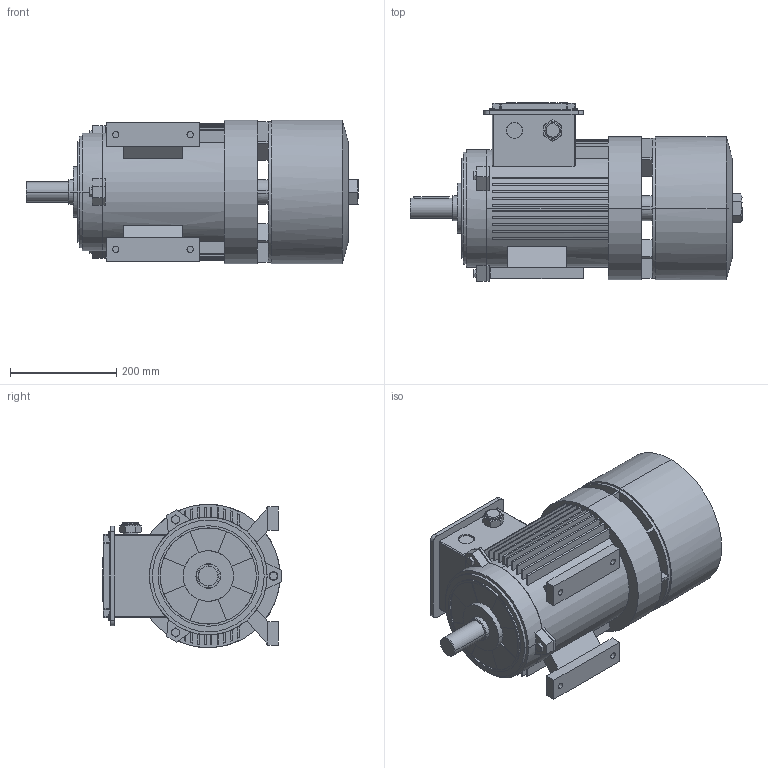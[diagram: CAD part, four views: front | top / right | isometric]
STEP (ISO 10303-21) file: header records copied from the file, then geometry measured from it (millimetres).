
FILE_DESCRIPTION (( 'STEP AP214' ), '1' );
FILE_NAME ('MBF 132S-B3.STEP', '2020-06-20T07:37:46', ( '' ), ( '' ), 'SwSTEP 2.0', 'SolidWorks 2016', '' );
FILE_SCHEMA (( 'AUTOMOTIVE_DESIGN' ));
Length unit declared in the file: millimetre
Products named in the file (1): MBF 132S-B3
Bounding box: 625 x 336.64 x 270 mm (x, y, z)
Surface area: 1076859.2 mm2 (no closed solid volume)
Topology: 0 solids, 14 shells, 750 faces, 1990 edges, 1276 vertices
Faces by surface type: plane 460, cylinder 141, bspline 101, cone 48
Entity records: 33719 total; most frequent: CARTESIAN_POINT 8747, ORIENTED_EDGE 3924, DIRECTION 3334, EDGE_CURVE 1978, VERTEX_POINT 1276, LINE 1260, VECTOR 1260, AXIS2_PLACEMENT_3D 1037
